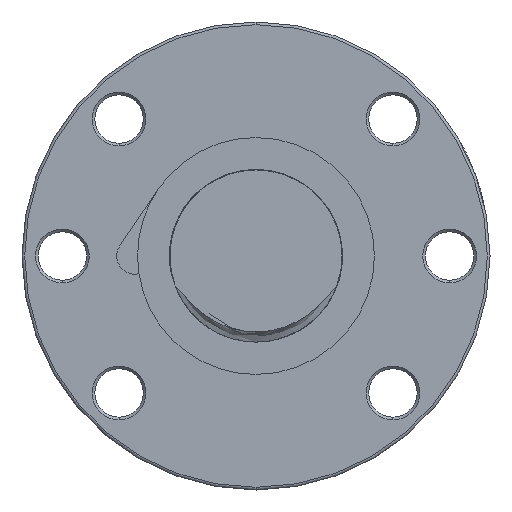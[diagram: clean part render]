
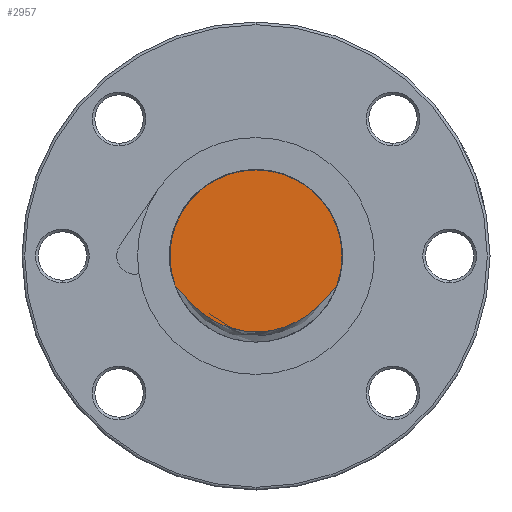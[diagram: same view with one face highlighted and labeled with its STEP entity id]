
A CAD part, left-side view. The second image highlights one B-rep face of the part: STEP entity #2957.
In plain terms, the highlighted planar face has unit normal (-1, 0, 0).
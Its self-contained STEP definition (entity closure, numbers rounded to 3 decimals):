
#2368 = EDGE_CURVE ( 'NONE', #2369, #2370, #5647, .T. ) ;
#2369 = VERTEX_POINT ( 'NONE', #5643 ) ;
#2370 = VERTEX_POINT ( 'NONE', #5642 ) ;
#2723 = EDGE_CURVE ( 'NONE', #2370, #2724, #21247, .T. ) ;
#2724 = VERTEX_POINT ( 'NONE', #21238 ) ;
#2957 = ADVANCED_FACE ( 'NONE', ( #23874 ), #23868, .F. ) ;
#2958 = EDGE_LOOP ( 'NONE', ( #2959, #2960, #3115 ) ) ;
#2959 = ORIENTED_EDGE ( 'NONE', *, *, #2368, .F. ) ;
#2960 = ORIENTED_EDGE ( 'NONE', *, *, #2961, .T. ) ;
#2961 = EDGE_CURVE ( 'NONE', #2369, #2724, #23863, .T. ) ;
#3115 = ORIENTED_EDGE ( 'NONE', *, *, #2723, .F. ) ;
#5642 = CARTESIAN_POINT ( 'NONE',  ( -231., 0., 16. ) ) ;
#5643 = CARTESIAN_POINT ( 'NONE',  ( -231., 15.065, -5.388 ) ) ;
#5644 = DIRECTION ( 'NONE',  ( 0., 1., 0. ) ) ;
#5645 = DIRECTION ( 'NONE',  ( 1., 0., 0. ) ) ;
#5646 = AXIS2_PLACEMENT_3D ( 'NONE', #5652, #5645, #5644 ) ;
#5647 = CIRCLE ( 'NONE', #5646, 16. ) ;
#5652 = CARTESIAN_POINT ( 'NONE',  ( -231., 0., 0. ) ) ;
#21238 = CARTESIAN_POINT ( 'NONE',  ( -231., -15.065, -5.389 ) ) ;
#21240 = DIRECTION ( 'NONE',  ( 0., 1., 0. ) ) ;
#21242 = DIRECTION ( 'NONE',  ( 1., 0., 0. ) ) ;
#21243 = CARTESIAN_POINT ( 'NONE',  ( -231., 0., 0. ) ) ;
#21245 = AXIS2_PLACEMENT_3D ( 'NONE', #21243, #21242, #21240 ) ;
#21247 = CIRCLE ( 'NONE', #21245, 16. ) ;
#23821 = CARTESIAN_POINT ( 'NONE',  ( -231., -15.065, -5.389 ) ) ;
#23822 = CARTESIAN_POINT ( 'NONE',  ( -231., -14.923, -5.514 ) ) ;
#23823 = CARTESIAN_POINT ( 'NONE',  ( -231., -14.793, -5.652 ) ) ;
#23824 = CARTESIAN_POINT ( 'NONE',  ( -231., -14.539, -5.933 ) ) ;
#23825 = CARTESIAN_POINT ( 'NONE',  ( -231., -14.416, -6.078 ) ) ;
#23826 = CARTESIAN_POINT ( 'NONE',  ( -231., -14.051, -6.514 ) ) ;
#23827 = CARTESIAN_POINT ( 'NONE',  ( -231., -13.812, -6.808 ) ) ;
#23828 = CARTESIAN_POINT ( 'NONE',  ( -231., -13.084, -7.681 ) ) ;
#23829 = CARTESIAN_POINT ( 'NONE',  ( -231., -12.583, -8.253 ) ) ;
#23830 = CARTESIAN_POINT ( 'NONE',  ( -231., -11.527, -9.336 ) ) ;
#23831 = CARTESIAN_POINT ( 'NONE',  ( -231., -10.973, -9.848 ) ) ;
#23832 = CARTESIAN_POINT ( 'NONE',  ( -231., -9.803, -10.802 ) ) ;
#23833 = CARTESIAN_POINT ( 'NONE',  ( -231., -9.183, -11.247 ) ) ;
#23834 = CARTESIAN_POINT ( 'NONE',  ( -231., -7.261, -12.443 ) ) ;
#23835 = CARTESIAN_POINT ( 'NONE',  ( -231., -5.893, -13.062 ) ) ;
#23836 = CARTESIAN_POINT ( 'NONE',  ( -231., -2.974, -13.91 ) ) ;
#23837 = CARTESIAN_POINT ( 'NONE',  ( -231., -1.489, -14.121 ) ) ;
#23838 = CARTESIAN_POINT ( 'NONE',  ( -231., 0.396, -14.118 ) ) ;
#23839 = CARTESIAN_POINT ( 'NONE',  ( -231., 0.777, -14.104 ) ) ;
#23840 = CARTESIAN_POINT ( 'NONE',  ( -231., 1.533, -14.049 ) ) ;
#23841 = CARTESIAN_POINT ( 'NONE',  ( -231., 1.908, -14.008 ) ) ;
#23842 = CARTESIAN_POINT ( 'NONE',  ( -231., 3.024, -13.846 ) ) ;
#23843 = CARTESIAN_POINT ( 'NONE',  ( -231., 3.756, -13.685 ) ) ;
#23844 = CARTESIAN_POINT ( 'NONE',  ( -231., 4.836, -13.368 ) ) ;
#23845 = CARTESIAN_POINT ( 'NONE',  ( -231., 5.194, -13.249 ) ) ;
#23846 = CARTESIAN_POINT ( 'NONE',  ( -231., 5.902, -12.986 ) ) ;
#23847 = CARTESIAN_POINT ( 'NONE',  ( -231., 6.255, -12.841 ) ) ;
#23848 = CARTESIAN_POINT ( 'NONE',  ( -231., 7.287, -12.374 ) ) ;
#23849 = CARTESIAN_POINT ( 'NONE',  ( -231., 7.947, -12.019 ) ) ;
#23850 = CARTESIAN_POINT ( 'NONE',  ( -231., 9.212, -11.227 ) ) ;
#23851 = CARTESIAN_POINT ( 'NONE',  ( -231., 9.818, -10.791 ) ) ;
#23852 = CARTESIAN_POINT ( 'NONE',  ( -231., 10.979, -9.843 ) ) ;
#23853 = CARTESIAN_POINT ( 'NONE',  ( -231., 11.536, -9.327 ) ) ;
#23854 = CARTESIAN_POINT ( 'NONE',  ( -231., 12.592, -8.243 ) ) ;
#23855 = CARTESIAN_POINT ( 'NONE',  ( -231., 13.09, -7.674 ) ) ;
#23856 = CARTESIAN_POINT ( 'NONE',  ( -231., 13.816, -6.803 ) ) ;
#23857 = CARTESIAN_POINT ( 'NONE',  ( -231., 14.054, -6.509 ) ) ;
#23858 = CARTESIAN_POINT ( 'NONE',  ( -231., 14.419, -6.074 ) ) ;
#23859 = CARTESIAN_POINT ( 'NONE',  ( -231., 14.541, -5.93 ) ) ;
#23860 = CARTESIAN_POINT ( 'NONE',  ( -231., 14.794, -5.65 ) ) ;
#23861 = CARTESIAN_POINT ( 'NONE',  ( -231., 14.923, -5.513 ) ) ;
#23862 = CARTESIAN_POINT ( 'NONE',  ( -231., 15.065, -5.388 ) ) ;
#23863 = B_SPLINE_CURVE_WITH_KNOTS ( 'NONE', 3,
 ( #23862, #23861, #23860, #23859, #23858, #23857, #23856, #23855, #23854, #23853, #23852, #23851, #23850, #23849, #23848, #23847, #23846, #23845, #23844, #23843, #23842, #23841, #23840, #23839, #23838, #23837, #23836, #23835, #23834, #23833, #23832, #23831, #23830, #23829, #23828, #23827, #23826, #23825, #23824, #23823, #23822, #23821 ),
 .UNSPECIFIED., .F., .F.,
 ( 4, 2, 2, 2, 2, 2, 2, 2, 2, 2, 2, 2, 2, 2, 2, 2, 2, 2, 2, 2, 4 ),
 ( 0.014, 0.015, 0.015, 0.017, 0.019, 0.021, 0.023, 0.025, 0.027, 0.028, 0.03, 0.031, 0.032, 0.037, 0.041, 0.043, 0.046, 0.048, 0.049, 0.05, 0.05 ),
 .UNSPECIFIED. ) ;
#23864 = DIRECTION ( 'NONE',  ( 0., 0., -1. ) ) ;
#23865 = DIRECTION ( 'NONE',  ( 1., 0., 0. ) ) ;
#23866 = CARTESIAN_POINT ( 'NONE',  ( -231., 0., 0. ) ) ;
#23867 = AXIS2_PLACEMENT_3D ( 'NONE', #23866, #23865, #23864 ) ;
#23868 = PLANE ( 'NONE',  #23867 ) ;
#23874 = FACE_OUTER_BOUND ( 'NONE', #2958, .T. ) ;
